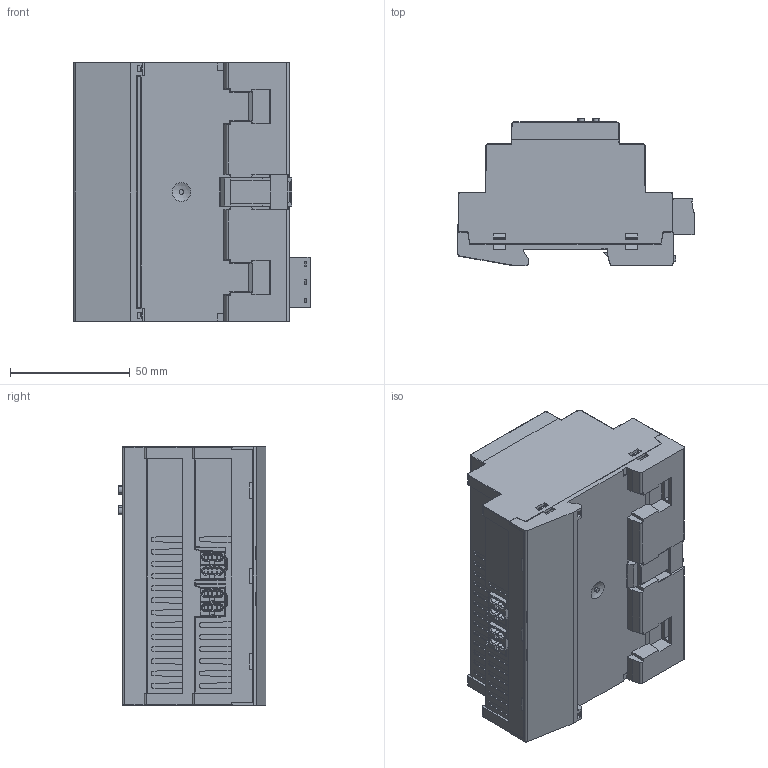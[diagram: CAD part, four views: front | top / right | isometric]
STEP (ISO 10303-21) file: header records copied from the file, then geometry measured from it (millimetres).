
FILE_DESCRIPTION(/* description */ (''),/* implementation_level */ '2;1');
FILE_NAME(/* name */ 'KNX_IP_LineMaster_762_1_secure.stp',/* time_stamp */ '2020-10-29T14:42:53+01:00',/* author */ (''),/* organization */ (''),/* preprocessor_version */ 'ST-DEVELOPER v18.1',/* originating_system */ 'Autodesk Inventor 2021',/* authorisation */ '');
FILE_SCHEMA (('AUTOMOTIVE_DESIGN { 1 0 10303 214 3 1 1 }'));
Products named in the file (1): KNX_IP_LineMaster_762_1_secure
Bounding box: 98.61 x 61.53 x 108 mm (x, y, z)
Volume: 435244.5 mm3; surface area: 51953.2 mm2
Topology: 1 solids, 9 shells, 1910 faces, 5244 edges, 3368 vertices
Faces by surface type: plane 1335, cylinder 430, cone 47, sphere 46, bspline 34, torus 18
Full cylindrical faces by diameter (mm): 1.1 x1, 2 x1, 2.9 x4, 3.8 x3
Entity records: 62990 total; most frequent: CARTESIAN_POINT 12317, ORIENTED_EDGE 10422, DIRECTION 9661, EDGE_CURVE 5211, LINE 4077, VECTOR 4077, VERTEX_POINT 3368, AXIS2_PLACEMENT_3D 2792
